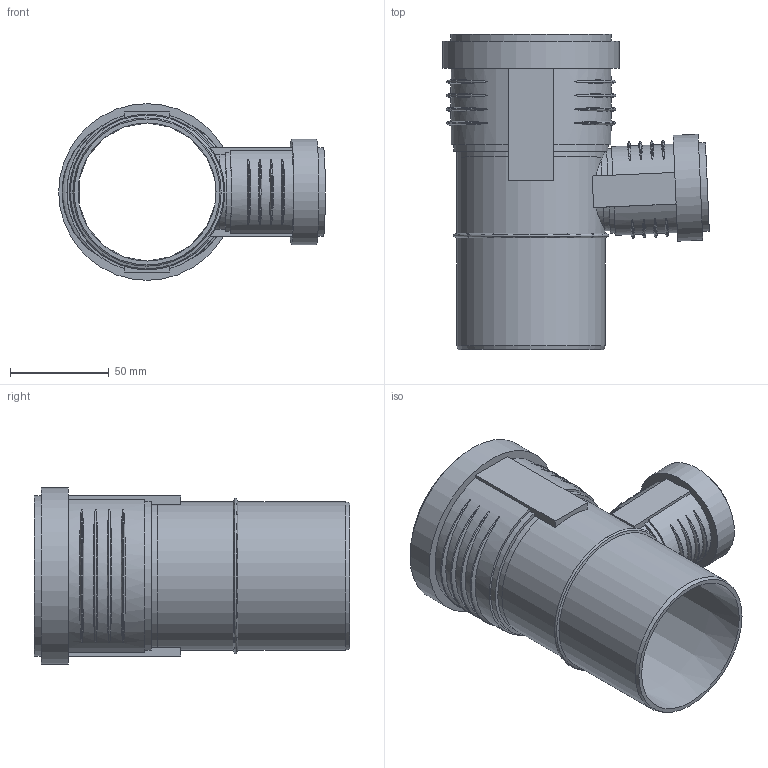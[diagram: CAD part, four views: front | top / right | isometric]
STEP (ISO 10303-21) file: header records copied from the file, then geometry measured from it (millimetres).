
FILE_DESCRIPTION(/* description */ (''),/* implementation_level */ '2;1');
FILE_NAME(/* name */ 'Z:\Geberit\Export\NewStep\390347.stp',/* time_stamp */ '2014-04-02T08:11:54+02:00',/* author */ ('ML'),/* organization */ (''),/* preprocessor_version */ 'ST-DEVELOPER v15.2',/* originating_system */ 'Autodesk Inventor 2014',/* authorisation */ '');
FILE_SCHEMA (('AUTOMOTIVE_DESIGN { 1 0 10303 214 3 1 1 }'));
Length unit declared in the file: millimetre
Products named in the file (4): 861353; 861400; 861402; 390347
Bounding box: 135.21 x 159.85 x 89.6 mm (x, y, z)
Volume: 128704.6 mm3; surface area: 108053.5 mm2
Topology: 3 solids, 3 shells, 123 faces, 302 edges, 211 vertices
Faces by surface type: torus 50, plane 37, cylinder 30, cone 6
Full cylindrical faces by diameter (mm): 36.15 x2, 40.15 x2, 41 x2, 45 x1, 49.7 x1, 53.7 x1, 70.2 x1, 75.2 x3, 76.2 x2, 81.2 x1, 84.6 x1, 89.6 x1
Entity records: 4991 total; most frequent: CARTESIAN_POINT 2100, ORIENTED_EDGE 532, DIRECTION 524, EDGE_CURVE 266, AXIS2_PLACEMENT_3D 226, VERTEX_POINT 202, EDGE_LOOP 184, STYLED_ITEM 124
